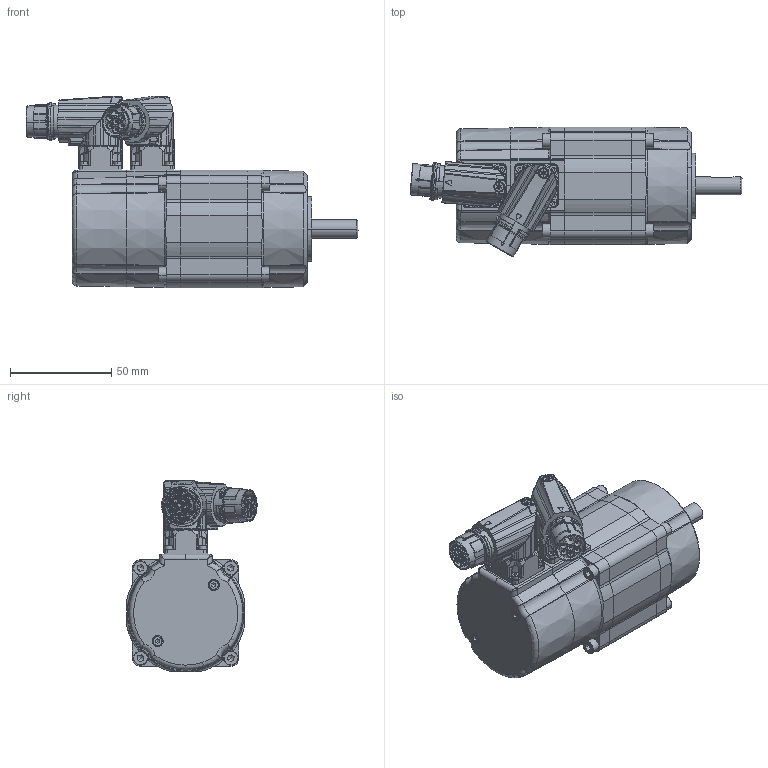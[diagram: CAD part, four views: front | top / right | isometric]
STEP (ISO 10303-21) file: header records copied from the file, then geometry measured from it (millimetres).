
FILE_DESCRIPTION(('CATIA V5 STEP Exchange'),'2;1');
FILE_NAME('C:\Documents and Settings\max\Documenti\sangallimotori\3d step\tg1\motore_DSM5_12.stp','2010-12-11T00:46:05+00:00',('none'),('none'),'CATIA Version 5 Release 10 (IN-8)','CATIA V5 STEP AP203',' none');
FILE_SCHEMA(('CONFIG_CONTROL_DESIGN'));
Assembly tree (33 placements, depth 0):
Bounding box: 163.77 x 64.2 x 94.55 mm (x, y, z)
Volume: 342501.4 mm3; surface area: 69991.7 mm2
Topology: 30 solids, 31 shells, 3906 faces, 12322 edges, 8545 vertices
Faces by surface type: cylinder 1455, plane 842, bspline 822, cone 358, torus 325, sphere 98, extrusion 6
Entity records: 180669 total; most frequent: CARTESIAN_POINT 97999, ORIENTED_EDGE 22138, EDGE_CURVE 11082, DIRECTION 9955, VERTEX_POINT 7795, B_SPLINE_CURVE_WITH_KNOTS 5236, AXIS2_PLACEMENT_3D 4834, EDGE_LOOP 3530
